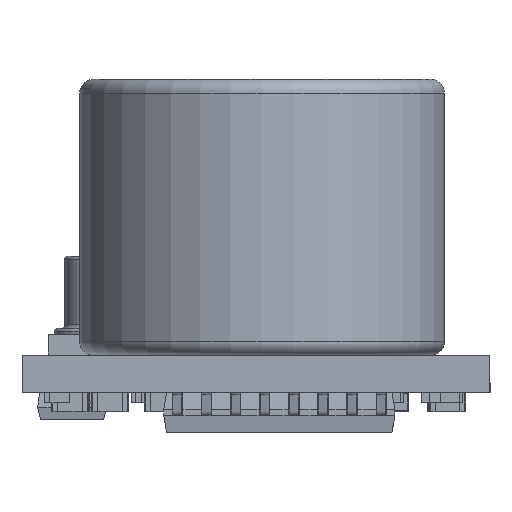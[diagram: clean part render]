
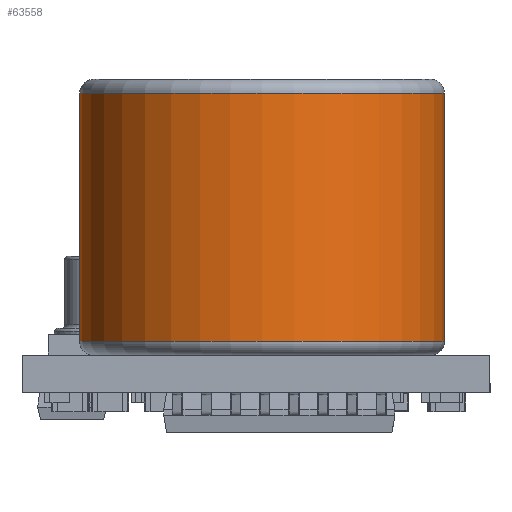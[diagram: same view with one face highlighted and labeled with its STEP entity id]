
A CAD part, left-side view. The second image highlights one B-rep face of the part: STEP entity #63558.
In plain terms, the highlighted cylindrical face has radius 7.95 mm (diameter 15.9 mm), a full revolution.
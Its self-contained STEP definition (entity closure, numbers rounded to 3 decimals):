
#714=CYLINDRICAL_SURFACE('',#66607,7.95);
#22162=ORIENTED_EDGE('',*,*,#32222,.T.);
#22163=ORIENTED_EDGE('',*,*,#32223,.T.);
#32222=EDGE_CURVE('',#37876,#37876,#40166,.F.);
#32223=EDGE_CURVE('',#37877,#37877,#40167,.T.);
#37876=VERTEX_POINT('',#103627);
#37877=VERTEX_POINT('',#103629);
#40166=CIRCLE('',#66608,7.95);
#40167=CIRCLE('',#66609,7.95);
#42286=EDGE_LOOP('',(#22162));
#42287=EDGE_LOOP('',(#22163));
#45608=FACE_BOUND('',#42286,.T.);
#45609=FACE_BOUND('',#42287,.T.);
#63558=ADVANCED_FACE('',(#45608,#45609),#714,.T.);
#66607=AXIS2_PLACEMENT_3D('',#103625,#74756,#74757);
#66608=AXIS2_PLACEMENT_3D('',#103626,#74758,#74759);
#66609=AXIS2_PLACEMENT_3D('',#103628,#74760,#74761);
#74756=DIRECTION('',(0.,0.,1.));
#74757=DIRECTION('',(1.,0.,0.));
#74758=DIRECTION('',(0.,0.,1.));
#74759=DIRECTION('',(1.,0.,0.));
#74760=DIRECTION('',(0.,0.,1.));
#74761=DIRECTION('',(1.,0.,0.));
#103625=CARTESIAN_POINT('',(12.941,-0.267,-12.014));
#103626=CARTESIAN_POINT('',(12.941,-0.267,-0.595));
#103627=CARTESIAN_POINT('',(20.892,-0.267,-0.595));
#103628=CARTESIAN_POINT('',(12.941,-0.267,-11.419));
#103629=CARTESIAN_POINT('',(20.892,-0.267,-11.419));
